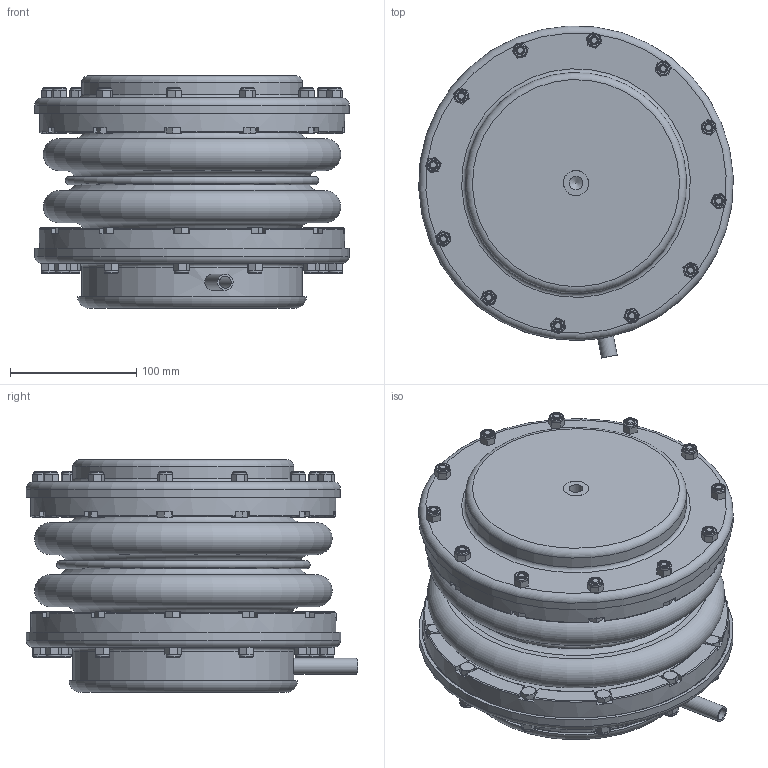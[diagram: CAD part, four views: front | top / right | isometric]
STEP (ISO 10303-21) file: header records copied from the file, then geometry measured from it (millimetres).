
FILE_DESCRIPTION((''),'2;1');
FILE_NAME('C:\2012_Work\Designs\MT MOUNTS\MT-6\MT-6 ASSEMBLY.stp','2013-11-05T14:07:26',('KShiels'),(''),'Autodesk Inventor 2012','Autodesk Inventor 2012','');
FILE_SCHEMA(('AUTOMOTIVE_DESIGN { 1 0 10303 214 1 1 1 1 }'));
Length unit declared in the file: inch
Products named in the file (10): MT-6 ASSEMBLY; MT-6 FRICTION PAD; MT-6 BOTTOM HOUSING; MT-6 RUBBER BELLOWS; MT-6 TOP HOUSING; MT-6 INNER CASTING; MT-6 TAPED ROUND STOCK; MT-6 NIPPLE; 0; Hex Bolt - Inch 1/4-20 UNC - 1.25
Assembly tree (56 placements, depth 2):
  MT-6 ASSEMBLY
    MT-6 FRICTION PAD
    MT-6 BOTTOM HOUSING
    MT-6 RUBBER BELLOWS
    MT-6 TOP HOUSING
    MT-6 INNER CASTING  x2
    MT-6 TAPED ROUND STOCK
    MT-6 NIPPLE
    0  x24
    Hex Bolt - Inch 1/4-20 UNC - 1.25  x24
Bounding box: 249.17 x 262.86 x 184.14 mm (x, y, z)
Volume: 2018612.7 mm3; surface area: 936094.1 mm2
Topology: 68 solids, 79 shells, 1936 faces, 4713 edges, 2927 vertices
Faces by surface type: plane 1278, cylinder 249, torus 206, cone 203
Full cylindrical faces by diameter (mm): 6.35 x48, 6.604 x24, 6.747 x24, 7 x24, 7.144 x24, 9.6 x1, 10.592 x1, 11.113 x24, 11.125 x24, 12.6 x1, 13 x1, 20 x2, 25.4 x1, 32 x1, 38 x1, 80 x1, 86 x1, 128 x1, 134 x1, 163.513 x2, 170 x2, 170.656 x2, 173 x2, 175.2 x2, 208.756 x2, 214 x2, 242 x2, 244 x2, 249.2 x2
Entity records: 11100 total; most frequent: CARTESIAN_POINT 2389, DIRECTION 1854, ORIENTED_EDGE 1322, AXIS2_PLACEMENT_3D 849, EDGE_LOOP 680, EDGE_CURVE 661, VERTEX_POINT 497, CIRCLE 394
